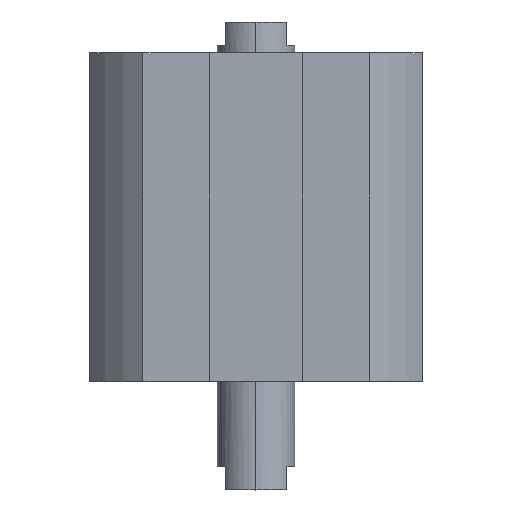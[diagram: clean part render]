
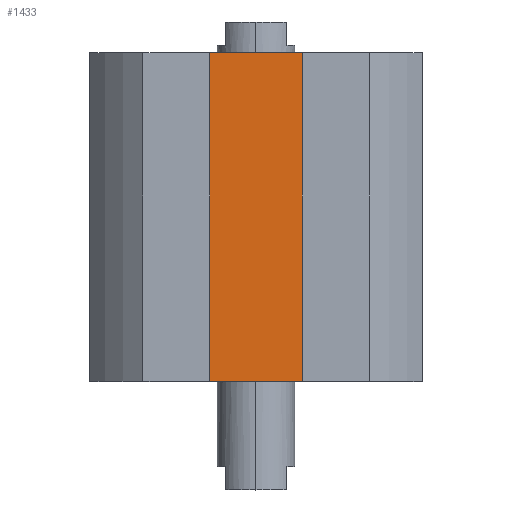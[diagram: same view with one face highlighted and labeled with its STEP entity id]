
A CAD part, top view. The second image highlights one B-rep face of the part: STEP entity #1433.
In plain terms, the highlighted planar face has unit normal (0, 0, 1).
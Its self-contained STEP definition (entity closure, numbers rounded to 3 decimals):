
#75 = FACE_OUTER_BOUND ( 'NONE', #1317, .T. ) ;
#90 = CARTESIAN_POINT ( 'NONE',  ( 7.7, -42.5, 14. ) ) ;
#240 = LINE ( 'NONE', #1833, #3048 ) ;
#486 = DIRECTION ( 'NONE',  ( 1., 0., 0. ) ) ;
#532 = DIRECTION ( 'NONE',  ( 1., 0., 0. ) ) ;
#667 = LINE ( 'NONE', #1011, #1751 ) ;
#730 = CARTESIAN_POINT ( 'NONE',  ( -7.7, -42.5, 14. ) ) ;
#828 = EDGE_CURVE ( 'NONE', #1167, #1149, #240, .T. ) ;
#1011 = CARTESIAN_POINT ( 'NONE',  ( 7.7, -42.5, 14. ) ) ;
#1021 = ORIENTED_EDGE ( 'NONE', *, *, #1952, .F. ) ;
#1149 = VERTEX_POINT ( 'NONE', #90 ) ;
#1167 = VERTEX_POINT ( 'NONE', #2461 ) ;
#1229 = DIRECTION ( 'NONE',  ( 1., 0., 0. ) ) ;
#1251 = EDGE_CURVE ( 'NONE', #1149, #1565, #667, .T. ) ;
#1317 = EDGE_LOOP ( 'NONE', ( #3205, #1021, #1967, #3508 ) ) ;
#1356 = LINE ( 'NONE', #2613, #3679 ) ;
#1366 = DIRECTION ( 'NONE',  ( 0., 0., 1. ) ) ;
#1397 = VECTOR ( 'NONE', #3133, 1000. ) ;
#1433 = ADVANCED_FACE ( 'NONE', ( #75 ), #1699, .T. ) ;
#1565 = VERTEX_POINT ( 'NONE', #1714 ) ;
#1699 = PLANE ( 'NONE',  #3666 ) ;
#1714 = CARTESIAN_POINT ( 'NONE',  ( 7.7, 0., 14. ) ) ;
#1751 = VECTOR ( 'NONE', #3736, 1000. ) ;
#1833 = CARTESIAN_POINT ( 'NONE',  ( 0., -42.5, 14. ) ) ;
#1945 = CARTESIAN_POINT ( 'NONE',  ( 0., -42.5, 14. ) ) ;
#1952 = EDGE_CURVE ( 'NONE', #1167, #2294, #3150, .T. ) ;
#1967 = ORIENTED_EDGE ( 'NONE', *, *, #828, .T. ) ;
#2100 = EDGE_CURVE ( 'NONE', #2294, #1565, #1356, .T. ) ;
#2294 = VERTEX_POINT ( 'NONE', #3330 ) ;
#2461 = CARTESIAN_POINT ( 'NONE',  ( -7.7, -42.5, 14. ) ) ;
#2613 = CARTESIAN_POINT ( 'NONE',  ( 0., 0., 14. ) ) ;
#3048 = VECTOR ( 'NONE', #1229, 1000. ) ;
#3133 = DIRECTION ( 'NONE',  ( 0., 1., 0. ) ) ;
#3150 = LINE ( 'NONE', #730, #1397 ) ;
#3205 = ORIENTED_EDGE ( 'NONE', *, *, #2100, .F. ) ;
#3330 = CARTESIAN_POINT ( 'NONE',  ( -7.7, 0., 14. ) ) ;
#3508 = ORIENTED_EDGE ( 'NONE', *, *, #1251, .T. ) ;
#3666 = AXIS2_PLACEMENT_3D ( 'NONE', #1945, #1366, #486 ) ;
#3679 = VECTOR ( 'NONE', #532, 1000. ) ;
#3736 = DIRECTION ( 'NONE',  ( 0., 1., 0. ) ) ;
